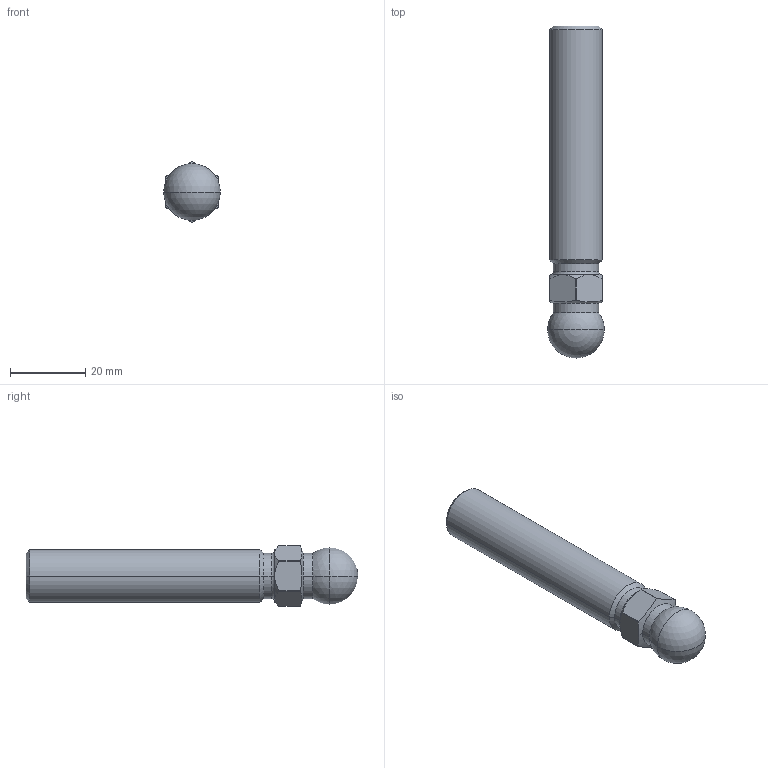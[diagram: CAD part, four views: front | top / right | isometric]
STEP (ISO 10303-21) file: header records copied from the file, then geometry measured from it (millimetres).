
FILE_DESCRIPTION(('STEP AP214'),'1');
FILE_NAME('fath_098dm14066m.stp','2017-09-25T11:46:31',('TraceParts'),('TraceParts S.A.'),'Spatial InterOp 3D',' ',' ');
FILE_SCHEMA(('automotive_design'));
Length unit declared in the file: millimetre
Products named in the file (1): fath_098dm14066m
Bounding box: 15 x 88 x 16.1 mm (x, y, z)
Volume: 13123.3 mm3; surface area: 4114.3 mm2
Topology: 1 solids, 1 shells, 43 faces, 108 edges, 63 vertices
Faces by surface type: plane 13, cone 12, cylinder 12, sphere 4, torus 2
Entity records: 1719 total; most frequent: CARTESIAN_POINT 347, DIRECTION 220, ORIENTED_EDGE 208, EDGE_CURVE 104, AXIS2_PLACEMENT_3D 92, VERTEX_POINT 63, CIRCLE 48, STYLED_ITEM 44
